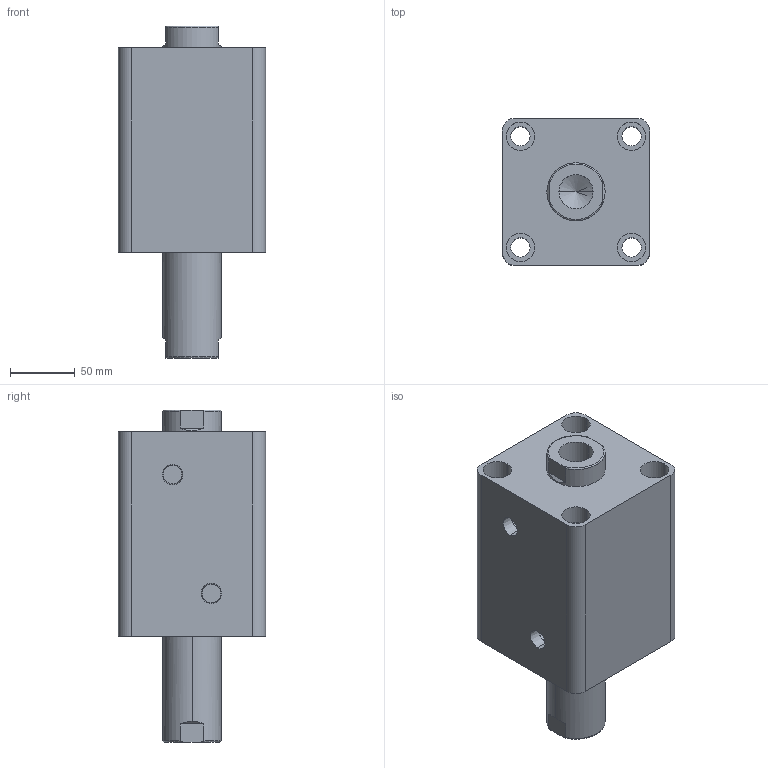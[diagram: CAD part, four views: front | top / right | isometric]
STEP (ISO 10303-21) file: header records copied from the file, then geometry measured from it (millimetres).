
FILE_DESCRIPTION (( 'STEP AP203' ), '1' );
FILE_NAME ('HTB-SW80-65N.STEP', '2019-10-07T10:24:51', ( '微软用户' ), ( '微软中国' ), 'SwSTEP 2.0', 'SolidWorks 2012', '' );
FILE_SCHEMA (( 'CONFIG_CONTROL_DESIGN' ));
Length unit declared in the file: millimetre
Products named in the file (3): HTB-SW80-65N; HTB-SW80-65N活塞杆; HTB-SW80-65掛极
Assembly tree (2 placements, depth 2):
  HTB-SW80-65N
    HTB-SW80-65掛极
    HTB-SW80-65N活塞杆
Bounding box: 114 x 114 x 257 mm (x, y, z)
Volume: 1801750.4 mm3; surface area: 217815.3 mm2
Topology: 2 solids, 2 shells, 100 faces, 228 edges, 146 vertices
Faces by surface type: cylinder 48, plane 32, torus 12, cone 8
Entity records: 3237 total; most frequent: CARTESIAN_POINT 595, DIRECTION 542, ORIENTED_EDGE 448, AXIS2_PLACEMENT_3D 229, EDGE_CURVE 224, VERTEX_POINT 146, EDGE_LOOP 128, CIRCLE 124
